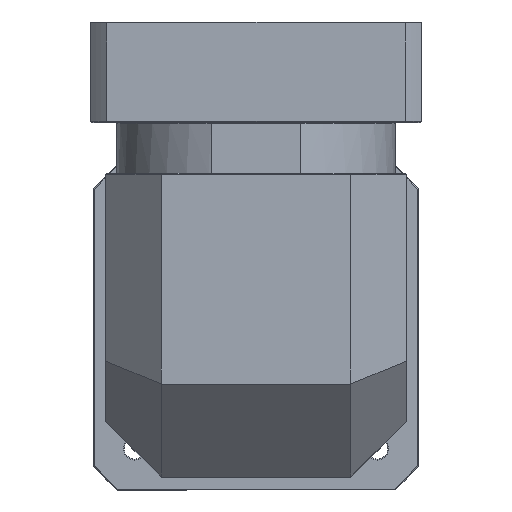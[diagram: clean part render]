
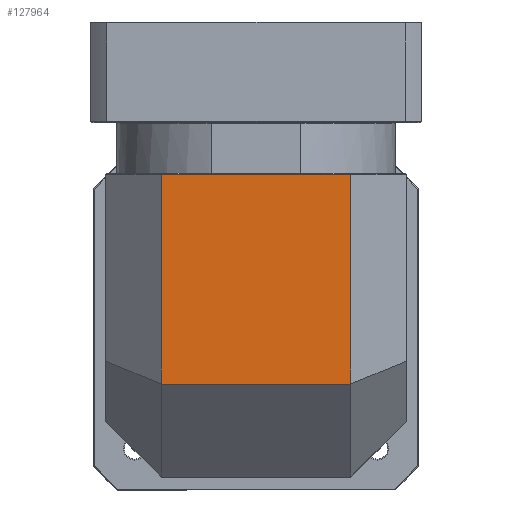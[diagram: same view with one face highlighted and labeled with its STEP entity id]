
A CAD part, top view. The second image highlights one B-rep face of the part: STEP entity #127964.
In plain terms, the highlighted planar face has unit normal (0, 0, 1).
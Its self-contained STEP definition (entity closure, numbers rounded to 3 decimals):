
#4689 = LINE ( 'NONE', #17560, #110750 ) ;
#13266 = VECTOR ( 'NONE', #90435, 1000. ) ;
#14972 = EDGE_CURVE ( 'NONE', #45324, #72748, #4689, .T. ) ;
#17560 = CARTESIAN_POINT ( 'NONE',  ( -125.034, 182.281, 54.757 ) ) ;
#20595 = FACE_OUTER_BOUND ( 'NONE', #44834, .T. ) ;
#23600 = DIRECTION ( 'NONE',  ( 0., 1., 0. ) ) ;
#26561 = VECTOR ( 'NONE', #23600, 1000. ) ;
#29914 = EDGE_CURVE ( 'NONE', #109368, #45324, #95821, .T. ) ;
#30857 = ORIENTED_EDGE ( 'NONE', *, *, #14972, .T. ) ;
#31067 = CARTESIAN_POINT ( 'NONE',  ( -125.034, 69.281, 54.757 ) ) ;
#38264 = CARTESIAN_POINT ( 'NONE',  ( -125.034, 182.781, 54.757 ) ) ;
#42128 = CARTESIAN_POINT ( 'NONE',  ( 6.966, 69.281, 54.757 ) ) ;
#44834 = EDGE_LOOP ( 'NONE', ( #86408, #30857, #114237, #86185 ) ) ;
#45324 = VERTEX_POINT ( 'NONE', #106669 ) ;
#49371 = CARTESIAN_POINT ( 'NONE',  ( 6.966, 182.781, 54.757 ) ) ;
#55527 = EDGE_CURVE ( 'NONE', #110198, #72748, #121751, .T. ) ;
#67792 = DIRECTION ( 'NONE',  ( -1., 0., 0. ) ) ;
#70509 = CARTESIAN_POINT ( 'NONE',  ( -95.034, 182.281, 54.757 ) ) ;
#72748 = VERTEX_POINT ( 'NONE', #70509 ) ;
#83372 = CARTESIAN_POINT ( 'NONE',  ( -95.034, 101.031, 54.757 ) ) ;
#86185 = ORIENTED_EDGE ( 'NONE', *, *, #118150, .T. ) ;
#86408 = ORIENTED_EDGE ( 'NONE', *, *, #29914, .T. ) ;
#90435 = DIRECTION ( 'NONE',  ( 1., 0., 0. ) ) ;
#94764 = AXIS2_PLACEMENT_3D ( 'NONE', #38264, #108044, #118065 ) ;
#95821 = LINE ( 'NONE', #49371, #100569 ) ;
#100569 = VECTOR ( 'NONE', #119155, 1000. ) ;
#100645 = LINE ( 'NONE', #31067, #13266 ) ;
#106669 = CARTESIAN_POINT ( 'NONE',  ( 6.966, 182.281, 54.757 ) ) ;
#108044 = DIRECTION ( 'NONE',  ( 0., 0., -1. ) ) ;
#109368 = VERTEX_POINT ( 'NONE', #42128 ) ;
#110198 = VERTEX_POINT ( 'NONE', #129275 ) ;
#110750 = VECTOR ( 'NONE', #67792, 1000. ) ;
#114237 = ORIENTED_EDGE ( 'NONE', *, *, #55527, .F. ) ;
#118065 = DIRECTION ( 'NONE',  ( 1., 0., 0. ) ) ;
#118150 = EDGE_CURVE ( 'NONE', #110198, #109368, #100645, .T. ) ;
#118496 = PLANE ( 'NONE',  #94764 ) ;
#119155 = DIRECTION ( 'NONE',  ( 0., 1., 0. ) ) ;
#121751 = LINE ( 'NONE', #83372, #26561 ) ;
#127964 = ADVANCED_FACE ( 'NONE', ( #20595 ), #118496, .F. ) ;
#129275 = CARTESIAN_POINT ( 'NONE',  ( -95.034, 69.281, 54.757 ) ) ;
